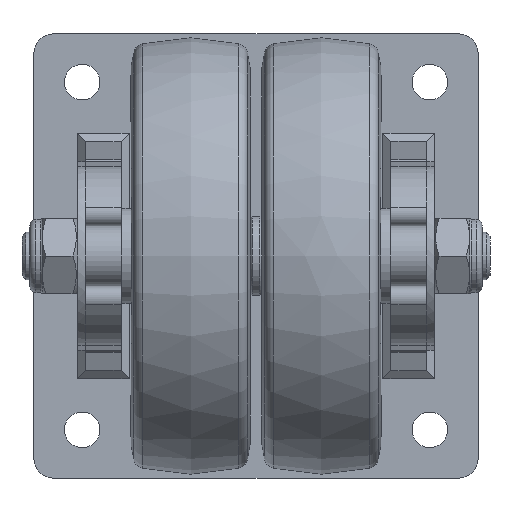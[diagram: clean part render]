
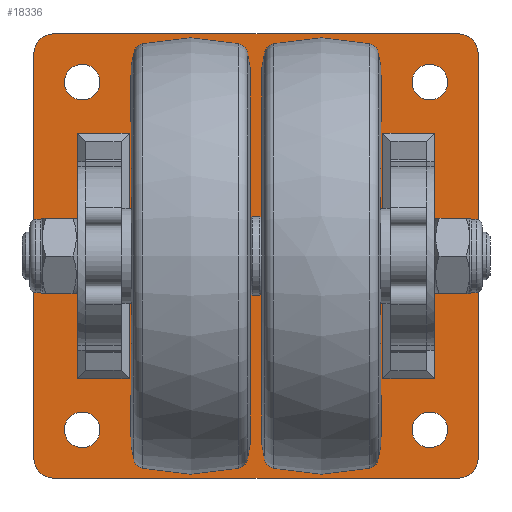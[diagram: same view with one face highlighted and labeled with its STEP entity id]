
A CAD part, front view. The second image highlights one B-rep face of the part: STEP entity #18336.
In plain terms, the highlighted planar face has unit normal (0, -1, 0).
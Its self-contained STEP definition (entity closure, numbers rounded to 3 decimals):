
#922=FACE_BOUND('',#4438,.T.);
#923=FACE_BOUND('',#4439,.T.);
#924=FACE_BOUND('',#4440,.T.);
#925=FACE_BOUND('',#4441,.T.);
#926=FACE_BOUND('',#4442,.T.);
#927=FACE_BOUND('',#4443,.T.);
#1516=PLANE('',#19319);
#3392=FACE_OUTER_BOUND('',#4437,.T.);
#4437=EDGE_LOOP('',(#17252,#17253,#17254,#17255,#17256,#17257,#17258,#17259));
#4438=EDGE_LOOP('',(#17260,#17261,#17262,#17263));
#4439=EDGE_LOOP('',(#17264,#17265,#17266,#17267));
#4440=EDGE_LOOP('',(#17268));
#4441=EDGE_LOOP('',(#17269));
#4442=EDGE_LOOP('',(#17270));
#4443=EDGE_LOOP('',(#17271));
#4725=CIRCLE('',#19320,5.);
#4726=CIRCLE('',#19321,5.);
#4727=CIRCLE('',#19322,5.);
#4728=CIRCLE('',#19323,5.);
#4729=CIRCLE('',#19324,4.5);
#4730=CIRCLE('',#19325,4.5);
#4731=CIRCLE('',#19326,4.5);
#4732=CIRCLE('',#19327,4.5);
#6434=LINE('',#31432,#8155);
#6435=LINE('',#31436,#8156);
#6436=LINE('',#31440,#8157);
#6437=LINE('',#31444,#8158);
#6438=LINE('',#31448,#8159);
#6439=LINE('',#31450,#8160);
#6440=LINE('',#31452,#8161);
#6441=LINE('',#31453,#8162);
#6442=LINE('',#31456,#8163);
#6443=LINE('',#31458,#8164);
#6444=LINE('',#31460,#8165);
#6445=LINE('',#31461,#8166);
#8155=VECTOR('',#22936,10.);
#8156=VECTOR('',#22939,10.);
#8157=VECTOR('',#22942,10.);
#8158=VECTOR('',#22945,10.);
#8159=VECTOR('',#22948,10.);
#8160=VECTOR('',#22949,10.);
#8161=VECTOR('',#22950,10.);
#8162=VECTOR('',#22951,10.);
#8163=VECTOR('',#22952,10.);
#8164=VECTOR('',#22953,10.);
#8165=VECTOR('',#22954,10.);
#8166=VECTOR('',#22955,10.);
#9817=VERTEX_POINT('',#31430);
#9818=VERTEX_POINT('',#31431);
#9819=VERTEX_POINT('',#31433);
#9820=VERTEX_POINT('',#31435);
#9821=VERTEX_POINT('',#31437);
#9822=VERTEX_POINT('',#31439);
#9823=VERTEX_POINT('',#31441);
#9824=VERTEX_POINT('',#31443);
#9825=VERTEX_POINT('',#31446);
#9826=VERTEX_POINT('',#31447);
#9827=VERTEX_POINT('',#31449);
#9828=VERTEX_POINT('',#31451);
#9829=VERTEX_POINT('',#31454);
#9830=VERTEX_POINT('',#31455);
#9831=VERTEX_POINT('',#31457);
#9832=VERTEX_POINT('',#31459);
#9833=VERTEX_POINT('',#31462);
#9834=VERTEX_POINT('',#31464);
#9835=VERTEX_POINT('',#31466);
#9836=VERTEX_POINT('',#31468);
#12302=EDGE_CURVE('',#9817,#9818,#6434,.T.);
#12303=EDGE_CURVE('',#9819,#9817,#4725,.T.);
#12304=EDGE_CURVE('',#9820,#9819,#6435,.T.);
#12305=EDGE_CURVE('',#9821,#9820,#4726,.T.);
#12306=EDGE_CURVE('',#9822,#9821,#6436,.T.);
#12307=EDGE_CURVE('',#9823,#9822,#4727,.T.);
#12308=EDGE_CURVE('',#9824,#9823,#6437,.T.);
#12309=EDGE_CURVE('',#9818,#9824,#4728,.T.);
#12310=EDGE_CURVE('',#9825,#9826,#6438,.T.);
#12311=EDGE_CURVE('',#9827,#9825,#6439,.T.);
#12312=EDGE_CURVE('',#9828,#9827,#6440,.T.);
#12313=EDGE_CURVE('',#9826,#9828,#6441,.T.);
#12314=EDGE_CURVE('',#9829,#9830,#6442,.T.);
#12315=EDGE_CURVE('',#9831,#9829,#6443,.T.);
#12316=EDGE_CURVE('',#9832,#9831,#6444,.T.);
#12317=EDGE_CURVE('',#9830,#9832,#6445,.T.);
#12318=EDGE_CURVE('',#9833,#9833,#4729,.T.);
#12319=EDGE_CURVE('',#9834,#9834,#4730,.T.);
#12320=EDGE_CURVE('',#9835,#9835,#4731,.T.);
#12321=EDGE_CURVE('',#9836,#9836,#4732,.T.);
#17252=ORIENTED_EDGE('',*,*,#12302,.F.);
#17253=ORIENTED_EDGE('',*,*,#12303,.F.);
#17254=ORIENTED_EDGE('',*,*,#12304,.F.);
#17255=ORIENTED_EDGE('',*,*,#12305,.F.);
#17256=ORIENTED_EDGE('',*,*,#12306,.F.);
#17257=ORIENTED_EDGE('',*,*,#12307,.F.);
#17258=ORIENTED_EDGE('',*,*,#12308,.F.);
#17259=ORIENTED_EDGE('',*,*,#12309,.F.);
#17260=ORIENTED_EDGE('',*,*,#12310,.F.);
#17261=ORIENTED_EDGE('',*,*,#12311,.F.);
#17262=ORIENTED_EDGE('',*,*,#12312,.F.);
#17263=ORIENTED_EDGE('',*,*,#12313,.F.);
#17264=ORIENTED_EDGE('',*,*,#12314,.F.);
#17265=ORIENTED_EDGE('',*,*,#12315,.F.);
#17266=ORIENTED_EDGE('',*,*,#12316,.F.);
#17267=ORIENTED_EDGE('',*,*,#12317,.F.);
#17268=ORIENTED_EDGE('',*,*,#12318,.F.);
#17269=ORIENTED_EDGE('',*,*,#12319,.F.);
#17270=ORIENTED_EDGE('',*,*,#12320,.F.);
#17271=ORIENTED_EDGE('',*,*,#12321,.F.);
#18336=ADVANCED_FACE('',(#3392,#922,#923,#924,#925,#926,#927),#1516,.F.);
#19319=AXIS2_PLACEMENT_3D('',#31429,#22934,#22935);
#19320=AXIS2_PLACEMENT_3D('',#31434,#22937,#22938);
#19321=AXIS2_PLACEMENT_3D('',#31438,#22940,#22941);
#19322=AXIS2_PLACEMENT_3D('',#31442,#22943,#22944);
#19323=AXIS2_PLACEMENT_3D('',#31445,#22946,#22947);
#19324=AXIS2_PLACEMENT_3D('',#31463,#22956,#22957);
#19325=AXIS2_PLACEMENT_3D('',#31465,#22958,#22959);
#19326=AXIS2_PLACEMENT_3D('',#31467,#22960,#22961);
#19327=AXIS2_PLACEMENT_3D('',#31469,#22962,#22963);
#22934=DIRECTION('center_axis',(0.,1.,0.));
#22935=DIRECTION('ref_axis',(0.,0.,1.));
#22936=DIRECTION('',(1.,0.,0.));
#22937=DIRECTION('center_axis',(0.,1.,0.));
#22938=DIRECTION('ref_axis',(-1.,0.,0.));
#22939=DIRECTION('',(0.,0.,1.));
#22940=DIRECTION('center_axis',(0.,1.,0.));
#22941=DIRECTION('ref_axis',(0.,0.,-1.));
#22942=DIRECTION('',(-1.,0.,0.));
#22943=DIRECTION('center_axis',(0.,1.,0.));
#22944=DIRECTION('ref_axis',(1.,0.,0.));
#22945=DIRECTION('',(0.,0.,-1.));
#22946=DIRECTION('center_axis',(0.,1.,0.));
#22947=DIRECTION('ref_axis',(0.,0.,1.));
#22948=DIRECTION('',(0.,0.,-1.));
#22949=DIRECTION('',(-1.,0.,0.));
#22950=DIRECTION('',(0.,0.,1.));
#22951=DIRECTION('',(1.,0.,0.));
#22952=DIRECTION('',(0.,0.,1.));
#22953=DIRECTION('',(1.,0.,0.));
#22954=DIRECTION('',(0.,0.,-1.));
#22955=DIRECTION('',(-1.,0.,0.));
#22956=DIRECTION('center_axis',(0.,-1.,0.));
#22957=DIRECTION('ref_axis',(1.,0.,0.));
#22958=DIRECTION('center_axis',(0.,-1.,0.));
#22959=DIRECTION('ref_axis',(1.,0.,0.));
#22960=DIRECTION('center_axis',(0.,-1.,0.));
#22961=DIRECTION('ref_axis',(1.,0.,0.));
#22962=DIRECTION('center_axis',(0.,-1.,0.));
#22963=DIRECTION('ref_axis',(1.,0.,0.));
#31429=CARTESIAN_POINT('Origin',(0.,0.,0.));
#31430=CARTESIAN_POINT('',(-51.,0.,56.));
#31431=CARTESIAN_POINT('',(51.,0.,56.));
#31432=CARTESIAN_POINT('',(-51.,0.,56.));
#31433=CARTESIAN_POINT('',(-56.,0.,51.));
#31434=CARTESIAN_POINT('Origin',(-51.,0.,51.));
#31435=CARTESIAN_POINT('',(-56.,0.,-51.));
#31436=CARTESIAN_POINT('',(-56.,0.,-51.));
#31437=CARTESIAN_POINT('',(-51.,0.,-56.));
#31438=CARTESIAN_POINT('Origin',(-51.,0.,-51.));
#31439=CARTESIAN_POINT('',(51.,0.,-56.));
#31440=CARTESIAN_POINT('',(51.,0.,-56.));
#31441=CARTESIAN_POINT('',(56.,0.,-51.));
#31442=CARTESIAN_POINT('Origin',(51.,0.,-51.));
#31443=CARTESIAN_POINT('',(56.,0.,51.));
#31444=CARTESIAN_POINT('',(56.,0.,51.));
#31445=CARTESIAN_POINT('Origin',(51.,0.,51.));
#31446=CARTESIAN_POINT('',(32.,0.,31.005));
#31447=CARTESIAN_POINT('',(32.,0.,-31.005));
#31448=CARTESIAN_POINT('',(32.,0.,0.));
#31449=CARTESIAN_POINT('',(45.,0.,31.005));
#31450=CARTESIAN_POINT('',(21.5,0.,31.005));
#31451=CARTESIAN_POINT('',(45.,0.,-31.005));
#31452=CARTESIAN_POINT('',(45.,0.,0.));
#31453=CARTESIAN_POINT('',(21.5,0.,-31.005));
#31454=CARTESIAN_POINT('',(-32.,0.,-31.005));
#31455=CARTESIAN_POINT('',(-32.,0.,31.005));
#31456=CARTESIAN_POINT('',(-32.,0.,0.));
#31457=CARTESIAN_POINT('',(-45.,0.,-31.005));
#31458=CARTESIAN_POINT('',(-21.5,0.,-31.005));
#31459=CARTESIAN_POINT('',(-45.,0.,31.005));
#31460=CARTESIAN_POINT('',(-45.,0.,0.));
#31461=CARTESIAN_POINT('',(-21.5,0.,31.005));
#31462=CARTESIAN_POINT('',(39.341,0.,-43.841));
#31463=CARTESIAN_POINT('Origin',(43.841,0.,-43.841));
#31464=CARTESIAN_POINT('',(-48.341,0.,-43.841));
#31465=CARTESIAN_POINT('Origin',(-43.841,0.,-43.841));
#31466=CARTESIAN_POINT('',(39.341,0.,43.841));
#31467=CARTESIAN_POINT('Origin',(43.841,0.,43.841));
#31468=CARTESIAN_POINT('',(-48.341,0.,43.841));
#31469=CARTESIAN_POINT('Origin',(-43.841,0.,43.841));
